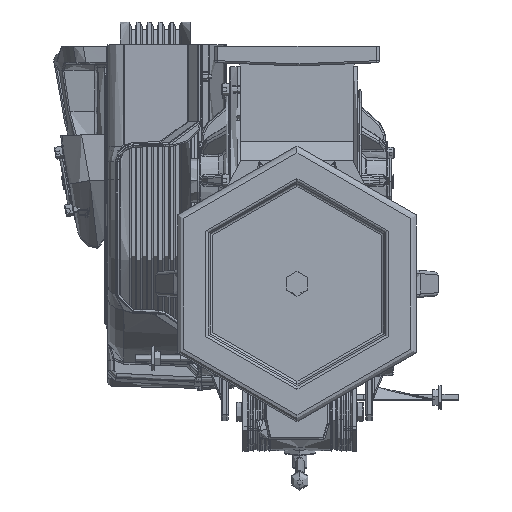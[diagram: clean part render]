
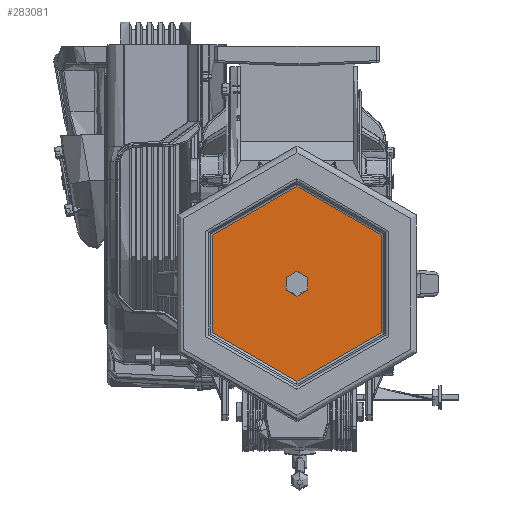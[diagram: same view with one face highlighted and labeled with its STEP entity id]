
A CAD part, front view. The second image highlights one B-rep face of the part: STEP entity #283081.
In plain terms, the highlighted planar face has unit normal (0, -1, 0).
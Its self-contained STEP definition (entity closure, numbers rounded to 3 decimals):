
#12218 = PLANE ( 'NONE',  #106644 ) ;
#17632 = CARTESIAN_POINT ( 'NONE',  ( 4.634, -506.898, -165.773 ) ) ;
#26332 = AXIS2_PLACEMENT_3D ( 'NONE', #106277, #181084, #51934 ) ;
#31177 = DIRECTION ( 'NONE',  ( 0., -1., 0. ) ) ;
#36732 = EDGE_CURVE ( 'NONE', #318045, #82061, #142098, .T. ) ;
#42775 = FACE_BOUND ( 'NONE', #169968, .T. ) ;
#48777 = CARTESIAN_POINT ( 'NONE',  ( 4.634, -506.898, 116.906 ) ) ;
#50628 = EDGE_CURVE ( 'NONE', #306757, #182004, #238080, .T. ) ;
#51934 = DIRECTION ( 'NONE',  ( 0., 0., -1. ) ) ;
#82061 = VERTEX_POINT ( 'NONE', #48777 ) ;
#85233 = ORIENTED_EDGE ( 'NONE', *, *, #122875, .T. ) ;
#87741 = AXIS2_PLACEMENT_3D ( 'NONE', #245241, #93989, #248610 ) ;
#93989 = DIRECTION ( 'NONE',  ( 0., -1., 0. ) ) ;
#106277 = CARTESIAN_POINT ( 'NONE',  ( 4.634, -506.898, -24.434 ) ) ;
#106644 = AXIS2_PLACEMENT_3D ( 'NONE', #171866, #250021, #194080 ) ;
#122875 = EDGE_CURVE ( 'NONE', #82061, #318045, #315172, .T. ) ;
#123269 = ORIENTED_EDGE ( 'NONE', *, *, #248104, .F. ) ;
#130171 = AXIS2_PLACEMENT_3D ( 'NONE', #303195, #31177, #235109 ) ;
#141422 = AXIS2_PLACEMENT_3D ( 'NONE', #265352, #219412, #292494 ) ;
#142098 = CIRCLE ( 'NONE', #87741, 141.34 ) ;
#148181 = ORIENTED_EDGE ( 'NONE', *, *, #36732, .T. ) ;
#166607 = ORIENTED_EDGE ( 'NONE', *, *, #50628, .F. ) ;
#168003 = CIRCLE ( 'NONE', #130171, 18.111 ) ;
#169968 = EDGE_LOOP ( 'NONE', ( #166607, #123269 ) ) ;
#171866 = CARTESIAN_POINT ( 'NONE',  ( 145.974, -506.898, -24.434 ) ) ;
#181084 = DIRECTION ( 'NONE',  ( 0., -1., 0. ) ) ;
#182004 = VERTEX_POINT ( 'NONE', #224022 ) ;
#190896 = CARTESIAN_POINT ( 'NONE',  ( 4.634, -506.898, -6.323 ) ) ;
#194080 = DIRECTION ( 'NONE',  ( 0., 0., -1. ) ) ;
#217853 = FACE_OUTER_BOUND ( 'NONE', #301162, .T. ) ;
#219412 = DIRECTION ( 'NONE',  ( 0., -1., 0. ) ) ;
#224022 = CARTESIAN_POINT ( 'NONE',  ( 4.634, -506.898, -42.545 ) ) ;
#235109 = DIRECTION ( 'NONE',  ( 0., 0., -1. ) ) ;
#238080 = CIRCLE ( 'NONE', #26332, 18.111 ) ;
#245241 = CARTESIAN_POINT ( 'NONE',  ( 4.634, -506.898, -24.434 ) ) ;
#248104 = EDGE_CURVE ( 'NONE', #182004, #306757, #168003, .T. ) ;
#248610 = DIRECTION ( 'NONE',  ( 0., 0., -1. ) ) ;
#250021 = DIRECTION ( 'NONE',  ( 0., -1., 0. ) ) ;
#265352 = CARTESIAN_POINT ( 'NONE',  ( 4.634, -506.898, -24.434 ) ) ;
#283081 = ADVANCED_FACE ( 'NONE', ( #217853, #42775 ), #12218, .T. ) ;
#292494 = DIRECTION ( 'NONE',  ( 0., 0., -1. ) ) ;
#301162 = EDGE_LOOP ( 'NONE', ( #148181, #85233 ) ) ;
#303195 = CARTESIAN_POINT ( 'NONE',  ( 4.634, -506.898, -24.434 ) ) ;
#306757 = VERTEX_POINT ( 'NONE', #190896 ) ;
#315172 = CIRCLE ( 'NONE', #141422, 141.34 ) ;
#318045 = VERTEX_POINT ( 'NONE', #17632 ) ;
